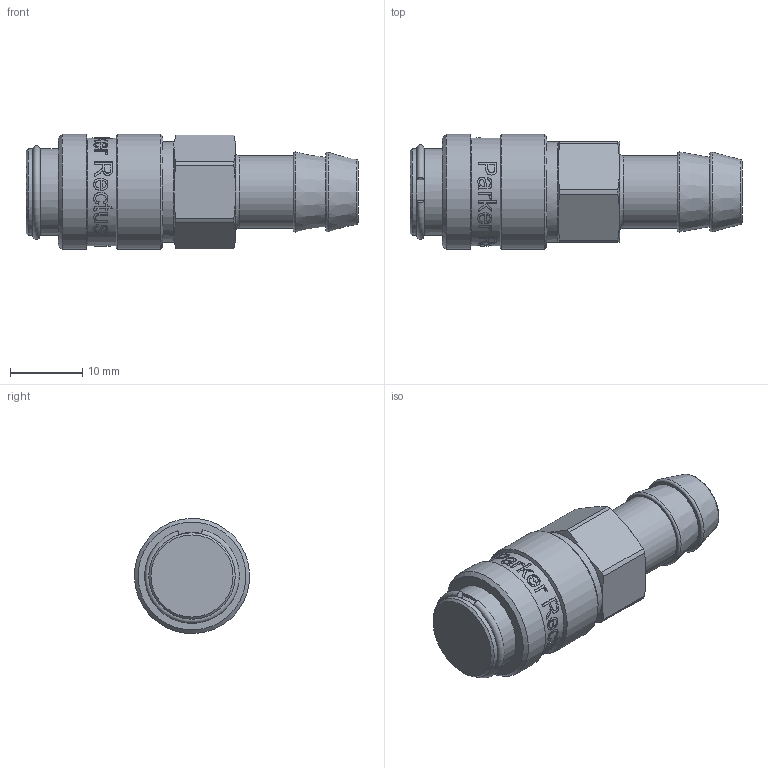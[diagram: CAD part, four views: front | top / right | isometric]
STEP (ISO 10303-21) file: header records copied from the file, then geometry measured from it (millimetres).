
FILE_DESCRIPTION(/* description */ (''),/* implementation_level */ '2;1');
FILE_NAME(/* name */ 'J:\003 3D Zeichnungen_step\Serie 21\21katf10mvn.stp',/* time_stamp */ '2021-03-05T10:16:32+01:00',/* author */ ('IA176480'),/* organization */ (''),/* preprocessor_version */ 'ST-DEVELOPER v17.2',/* originating_system */ 'Autodesk Inventor 2019',/* authorisation */ '');
FILE_SCHEMA (('CONFIG_CONTROL_DESIGN'));
Products named in the file (1): 21KATF10MVN
Bounding box: 46.09 x 15.98 x 15.98 mm (x, y, z)
Volume: 5970.7 mm3; surface area: 3834.8 mm2
Topology: 2 solids, 4 shells, 351 faces, 939 edges, 634 vertices
Faces by surface type: bspline 138, plane 124, cylinder 54, cone 27, torus 8
Full cylindrical faces by diameter (mm): 10.05 x1, 10.634 x1, 10.7 x1, 11.15 x1, 11.4 x1, 12 x3, 12.15 x1, 12.75 x1, 14 x2, 14.6 x1, 15 x1, 16 x2
Entity records: 44567 total; most frequent: CARTESIAN_POINT 36394, ORIENTED_EDGE 1882, DIRECTION 1147, EDGE_CURVE 941, VERTEX_POINT 636, AXIS2_PLACEMENT_3D 406, EDGE_LOOP 393, B_SPLINE_CURVE_WITH_KNOTS 390
